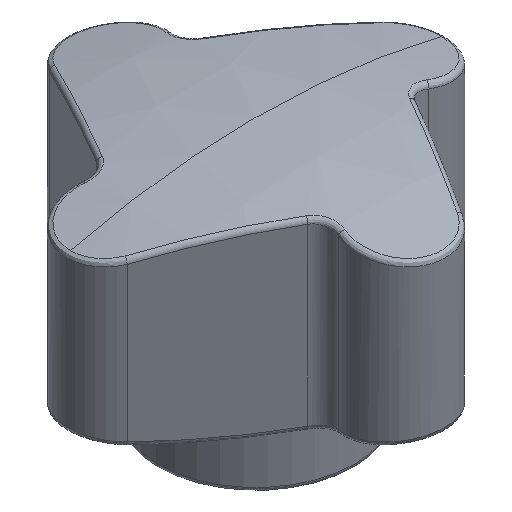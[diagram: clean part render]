
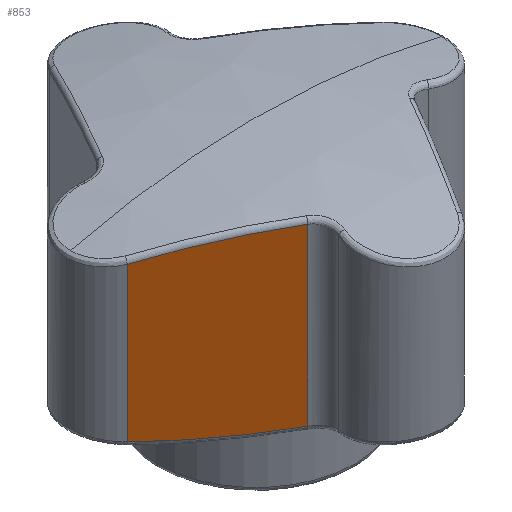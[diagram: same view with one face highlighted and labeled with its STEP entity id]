
A CAD part, isometric view. The second image highlights one B-rep face of the part: STEP entity #853.
In plain terms, the highlighted planar face has unit normal (-0.5, -0.866, 0).
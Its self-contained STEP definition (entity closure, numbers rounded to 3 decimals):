
#760 = EDGE_LOOP ( 'NONE', ( #855, #854, #829, #838 ) ) ;
#804 = EDGE_CURVE ( 'NONE', #849, #917, #1935, .T. ) ;
#821 = VERTEX_POINT ( 'NONE', #2012 ) ;
#828 = EDGE_CURVE ( 'NONE', #917, #865, #2043, .T. ) ;
#829 = ORIENTED_EDGE ( 'NONE', *, *, #804, .T. ) ;
#838 = ORIENTED_EDGE ( 'NONE', *, *, #828, .T. ) ;
#849 = VERTEX_POINT ( 'NONE', #2240 ) ;
#851 = EDGE_CURVE ( 'NONE', #821, #865, #2230, .T. ) ;
#853 = ADVANCED_FACE ( 'NONE', ( #2238 ), #2226, .F. ) ;
#854 = ORIENTED_EDGE ( 'NONE', *, *, #872, .T. ) ;
#855 = ORIENTED_EDGE ( 'NONE', *, *, #851, .F. ) ;
#865 = VERTEX_POINT ( 'NONE', #2271 ) ;
#872 = EDGE_CURVE ( 'NONE', #821, #849, #2269, .T. ) ;
#917 = VERTEX_POINT ( 'NONE', #2421 ) ;
#1935 = LINE ( 'NONE', #1964, #1963 ) ;
#1962 = DIRECTION ( 'NONE',  ( 0., 0., -1. ) ) ;
#1963 = VECTOR ( 'NONE', #1962, 1000. ) ;
#1964 = CARTESIAN_POINT ( 'NONE',  ( -17.768, -4.164, 27. ) ) ;
#2012 = CARTESIAN_POINT ( 'NONE',  ( -5.671, -11.148, 25.602 ) ) ;
#2029 = AXIS2_PLACEMENT_3D ( 'NONE', #2059, #2058, #2057 ) ;
#2043 = CIRCLE ( 'NONE', #2029, 79.855 ) ;
#2057 = DIRECTION ( 'NONE',  ( -0.866, 0.5, 0. ) ) ;
#2058 = DIRECTION ( 'NONE',  ( -0.5, -0.866, 0. ) ) ;
#2059 = CARTESIAN_POINT ( 'NONE',  ( -6.245, -10.817, 86.95 ) ) ;
#2138 = DIRECTION ( 'NONE',  ( 0.5, 0.866, 0. ) ) ;
#2175 = AXIS2_PLACEMENT_3D ( 'NONE', #2177, #2138, #2222 ) ;
#2177 = CARTESIAN_POINT ( 'NONE',  ( -17.768, -4.164, 27. ) ) ;
#2222 = DIRECTION ( 'NONE',  ( -0.866, 0.5, 0. ) ) ;
#2226 = PLANE ( 'NONE',  #2175 ) ;
#2227 = DIRECTION ( 'NONE',  ( 0., 0., -1. ) ) ;
#2228 = VECTOR ( 'NONE', #2227, 1000. ) ;
#2229 = CARTESIAN_POINT ( 'NONE',  ( -5.671, -11.148, 27. ) ) ;
#2230 = LINE ( 'NONE', #2229, #2228 ) ;
#2238 = FACE_OUTER_BOUND ( 'NONE', #760, .T. ) ;
#2240 = CARTESIAN_POINT ( 'NONE',  ( -17.768, -4.164, 24.489 ) ) ;
#2269 = CIRCLE ( 'NONE', #2280, 79.855 ) ;
#2271 = CARTESIAN_POINT ( 'NONE',  ( -5.671, -11.148, 7.098 ) ) ;
#2277 = DIRECTION ( 'NONE',  ( -0.866, 0.5, 0. ) ) ;
#2278 = DIRECTION ( 'NONE',  ( -0.5, -0.866, 0. ) ) ;
#2279 = CARTESIAN_POINT ( 'NONE',  ( -6.245, -10.817, -54.25 ) ) ;
#2280 = AXIS2_PLACEMENT_3D ( 'NONE', #2279, #2278, #2277 ) ;
#2421 = CARTESIAN_POINT ( 'NONE',  ( -17.768, -4.164, 8.211 ) ) ;
